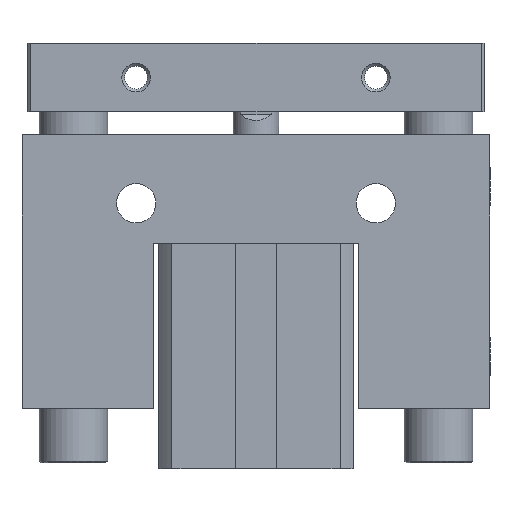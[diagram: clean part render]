
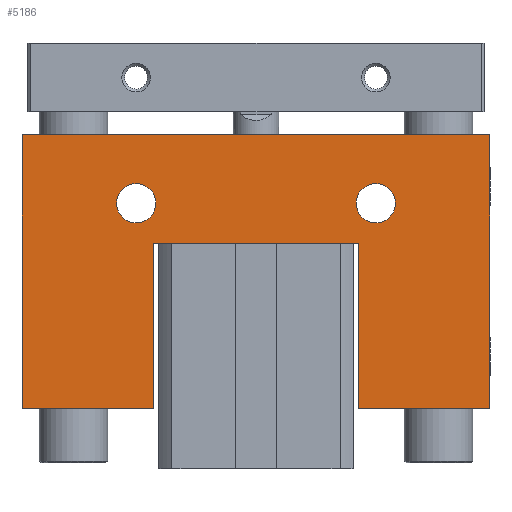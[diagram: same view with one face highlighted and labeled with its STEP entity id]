
A CAD part, front view. The second image highlights one B-rep face of the part: STEP entity #5186.
In plain terms, the highlighted planar face has unit normal (0, -1, 0).
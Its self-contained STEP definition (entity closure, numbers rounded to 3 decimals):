
#2112=CARTESIAN_POINT('',(-17.76,-16.817,10.5));
#2113=VERTEX_POINT('',#2112);
#2114=CARTESIAN_POINT('',(-40.76,-16.817,10.5));
#2115=VERTEX_POINT('',#2114);
#2116=CARTESIAN_POINT('',(-17.76,-16.817,10.5));
#2117=DIRECTION('',(-1.0,0.0,0.0));
#2118=VECTOR('',#2117,23.);
#2119=LINE('',#2116,#2118);
#2120=EDGE_CURVE('',#2113,#2115,#2119,.T.);
#2203=CARTESIAN_POINT('',(41.24,-16.817,10.5));
#2204=VERTEX_POINT('',#2203);
#2205=CARTESIAN_POINT('',(18.24,-16.817,10.5));
#2206=VERTEX_POINT('',#2205);
#2207=CARTESIAN_POINT('',(41.24,-16.817,10.5));
#2208=DIRECTION('',(-1.0,0.0,0.0));
#2209=VECTOR('',#2208,23.0);
#2210=LINE('',#2207,#2209);
#2211=EDGE_CURVE('',#2204,#2206,#2210,.T.);
#2266=CARTESIAN_POINT('',(-40.76,-16.817,58.5));
#2267=VERTEX_POINT('',#2266);
#2268=CARTESIAN_POINT('',(41.24,-16.817,58.5));
#2269=VERTEX_POINT('',#2268);
#2270=CARTESIAN_POINT('',(-40.76,-16.817,58.5));
#2271=DIRECTION('',(1.0,0.0,0.0));
#2272=VECTOR('',#2271,82.);
#2273=LINE('',#2270,#2272);
#2274=EDGE_CURVE('',#2267,#2269,#2273,.T.);
#4418=CARTESIAN_POINT('',(17.79,-16.817,46.5));
#4419=VERTEX_POINT('',#4418);
#4420=CARTESIAN_POINT('',(21.24,-16.817,46.5));
#4421=DIRECTION('',(0.0,1.0,0.0));
#4422=DIRECTION('',(1.0,0.0,0.0));
#4423=AXIS2_PLACEMENT_3D('',#4420,#4421,#4422);
#4424=CIRCLE('',#4423,3.45);
#4425=EDGE_CURVE('',#4419,#4419,#4424,.T.);
#4528=CARTESIAN_POINT('',(-24.21,-16.817,46.5));
#4529=VERTEX_POINT('',#4528);
#4530=CARTESIAN_POINT('',(-20.76,-16.817,46.5));
#4531=DIRECTION('',(0.0,1.0,0.0));
#4532=DIRECTION('',(1.0,0.0,0.0));
#4533=AXIS2_PLACEMENT_3D('',#4530,#4531,#4532);
#4534=CIRCLE('',#4533,3.45);
#4535=EDGE_CURVE('',#4529,#4529,#4534,.T.);
#4588=CARTESIAN_POINT('',(18.24,-16.817,39.5));
#4589=VERTEX_POINT('',#4588);
#4590=CARTESIAN_POINT('',(-17.76,-16.817,39.5));
#4591=VERTEX_POINT('',#4590);
#4592=CARTESIAN_POINT('',(18.24,-16.817,39.5));
#4593=DIRECTION('',(-1.0,0.0,0.0));
#4594=VECTOR('',#4593,36.0);
#4595=LINE('',#4592,#4594);
#4596=EDGE_CURVE('',#4589,#4591,#4595,.T.);
#5078=CARTESIAN_POINT('',(41.24,-16.817,58.5));
#5079=DIRECTION('',(0.0,0.0,-1.0));
#5080=VECTOR('',#5079,48.);
#5081=LINE('',#5078,#5080);
#5082=EDGE_CURVE('',#2269,#2204,#5081,.T.);
#5107=CARTESIAN_POINT('',(18.24,-16.817,10.5));
#5108=DIRECTION('',(0.0,0.0,1.0));
#5109=VECTOR('',#5108,29.0);
#5110=LINE('',#5107,#5109);
#5111=EDGE_CURVE('',#2206,#4589,#5110,.T.);
#5124=CARTESIAN_POINT('',(-17.76,-16.817,39.5));
#5125=DIRECTION('',(0.0,0.0,-1.0));
#5126=VECTOR('',#5125,29.0);
#5127=LINE('',#5124,#5126);
#5128=EDGE_CURVE('',#4591,#2113,#5127,.T.);
#5141=CARTESIAN_POINT('',(-40.76,-16.817,10.5));
#5142=DIRECTION('',(0.0,0.0,1.0));
#5143=VECTOR('',#5142,48.);
#5144=LINE('',#5141,#5143);
#5145=EDGE_CURVE('',#2115,#2267,#5144,.T.);
#5165=CARTESIAN_POINT('',(0.24,-16.817,36.05));
#5166=DIRECTION('',(0.0,1.0,0.0));
#5167=DIRECTION('',(0.0,0.0,1.0));
#5168=AXIS2_PLACEMENT_3D('',#5165,#5166,#5167);
#5169=PLANE('',#5168);
#5170=ORIENTED_EDGE('',*,*,#5082,.F.);
#5171=ORIENTED_EDGE('',*,*,#2274,.F.);
#5172=ORIENTED_EDGE('',*,*,#5145,.F.);
#5173=ORIENTED_EDGE('',*,*,#2120,.F.);
#5174=ORIENTED_EDGE('',*,*,#5128,.F.);
#5175=ORIENTED_EDGE('',*,*,#4596,.F.);
#5176=ORIENTED_EDGE('',*,*,#5111,.F.);
#5177=ORIENTED_EDGE('',*,*,#2211,.F.);
#5178=EDGE_LOOP('',(#5170,#5171,#5172,#5173,#5174,#5175,#5176,#5177));
#5179=FACE_OUTER_BOUND('',#5178,.T.);
#5180=ORIENTED_EDGE('',*,*,#4425,.T.);
#5181=EDGE_LOOP('',(#5180));
#5182=FACE_BOUND('',#5181,.T.);
#5183=ORIENTED_EDGE('',*,*,#4535,.T.);
#5184=EDGE_LOOP('',(#5183));
#5185=FACE_BOUND('',#5184,.T.);
#5186=ADVANCED_FACE('',(#5179,#5182,#5185),#5169,.F.);
